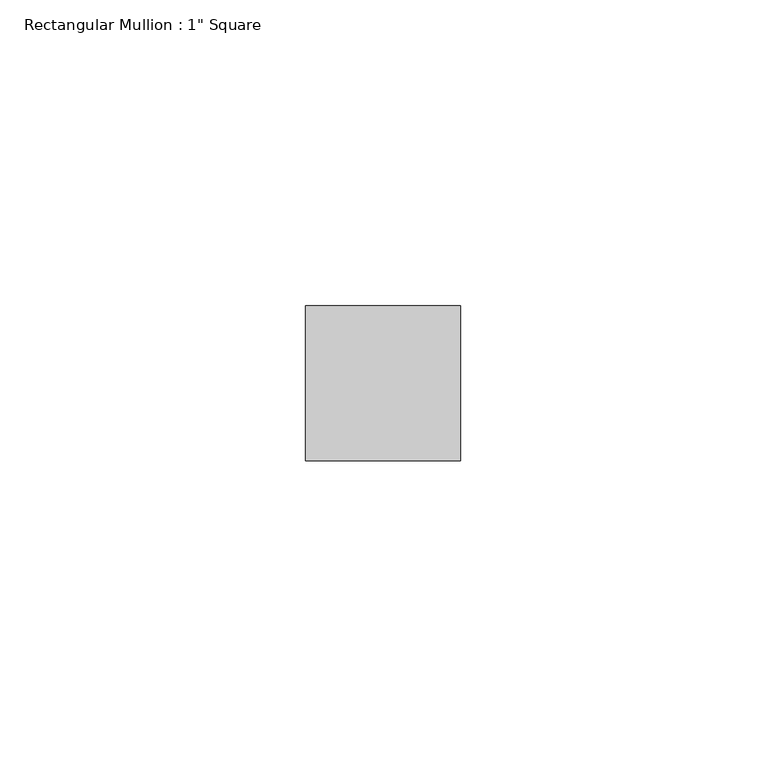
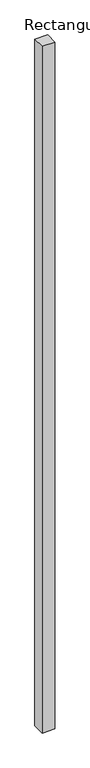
"""IFC4 building model written with IfcOpenShell, lengths in millimetres: member geometry."""

import ifcopenshell
import ifcopenshell.guid

model = None  # the IFC model being written
_history = None  # IfcOwnerHistory: only IFC2X3 demands one
_inside = {}  # id of a spatial element -> (the spatial element, [elements in it])
_under = {}  # id of a project, library or spatial element -> (it, [spatial elements below it])
_declared = {}  # id of a project -> (the project, [libraries it declares])
_typed = {}  # id of a type object -> (the type object, [elements of that type])
_made_of = {}  # id of a material, layer set ... -> (it, [elements and type objects made of it])


def new_model(schema):
    """Start an empty IFC model of exactly this schema.

    Asked for "IFC4X3", IfcOpenShell would pick the latest addendum, in which some entities
    have other attributes; the version numbers below select the first issue.
    IFC2X3 requires an IfcOwnerHistory on every rooted entity: one is made here for all.
    """
    global model, _history
    if schema == "IFC4X3":
        model = ifcopenshell.file(schema_version=(4, 3, 0, 0))
    else:
        model = ifcopenshell.file(schema=schema)
    _inside.clear()
    _under.clear()
    _declared.clear()
    _typed.clear()
    _made_of.clear()
    _history = None
    if model.schema == "IFC2X3":
        org = make("IfcOrganization", Name="unknown")
        user = make(
            "IfcPersonAndOrganization",
            ThePerson=make("IfcPerson", FamilyName="unknown"),
            TheOrganization=org,
        )
        app = make(
            "IfcApplication",
            ApplicationDeveloper=org,
            Version="unknown",
            ApplicationFullName="unknown",
            ApplicationIdentifier="unknown",
        )
        _history = make(
            "IfcOwnerHistory",
            OwningUser=user,
            OwningApplication=app,
            ChangeAction="ADDED",
            CreationDate=0,
        )
    return model


def make(cls, **values):
    """One entity of the class cls with the attributes given. An attribute that is None is left unset."""
    return model.create_entity(
        cls, **{name: value for name, value in values.items() if value is not None}
    )


def rooted(cls, **values):
    """An entity with a GlobalId (a new one), such as an element, a storey or a relation."""
    return make(cls, GlobalId=ifcopenshell.guid.new(), OwnerHistory=_history, **values)


def si_unit(unit_type, name, prefix=None):
    """IfcSIUnit, for example si_unit("LENGTHUNIT", "METRE", prefix="MILLI")."""
    return make("IfcSIUnit", UnitType=unit_type, Prefix=prefix, Name=name)


def assignment(units):
    """IfcUnitAssignment: the units of a project."""
    return None if units is None else make("IfcUnitAssignment", Units=units)


def point(xyz):
    """IfcCartesianPoint."""
    return None if xyz is None else make("IfcCartesianPoint", Coordinates=xyz)


def direction(xyz):
    """IfcDirection."""
    return None if xyz is None else make("IfcDirection", DirectionRatios=xyz)


def frame(location, z_axis=None, x_axis=None):
    """IfcAxis2Placement3D, a coordinate frame: its origin and axes. An axis left out is left unset."""
    return make(
        "IfcAxis2Placement3D",
        Location=point(location),
        Axis=direction(z_axis),
        RefDirection=direction(x_axis),
    )


def origin():
    """The frame at (0, 0, 0) with its axes left unset."""
    return frame((0.0, 0.0, 0.0))


def place(relative_to, where):
    """IfcLocalPlacement: puts the frame where relative to a parent placement (None: the world)."""
    return make(
        "IfcLocalPlacement", PlacementRelTo=relative_to, RelativePlacement=where
    )


def context(
    kind, dimensions, precision=None, world=None, true_north=None, identifier=None
):
    """IfcGeometricRepresentationContext, for example the 3D "Model" context."""
    return make(
        "IfcGeometricRepresentationContext",
        ContextIdentifier=identifier,
        ContextType=kind,
        CoordinateSpaceDimension=dimensions,
        Precision=precision,
        WorldCoordinateSystem=world,
        TrueNorth=true_north,
    )


def project(units=None, contexts=None):
    """IfcProject with its units and contexts."""
    return rooted(
        "IfcProject",
        Name="project",
        RepresentationContexts=contexts,
        UnitsInContext=assignment(units),
    )


def spatial(cls, under=None, at=None, **own):
    """A site, building, storey or space (cls), placed at a placement, below another one or the project."""
    s = rooted(cls, ObjectPlacement=at, **own)
    if under is not None:
        _under.setdefault(under.id(), (under, []))[1].append(s)
    return s


def polyline(points):
    """IfcPolyline through the points."""
    return make("IfcPolyline", Points=[point(p) for p in points])


def outline(outer, holes=None, kind="AREA"):
    """IfcArbitraryClosedProfileDef: a profile drawn as a closed curve; with holes, ...WithVoids."""
    if holes is None:
        return make("IfcArbitraryClosedProfileDef", ProfileType=kind, OuterCurve=outer)
    return make(
        "IfcArbitraryProfileDefWithVoids",
        ProfileType=kind,
        OuterCurve=outer,
        InnerCurves=holes,
    )


def extrude(swept, where, along, depth):
    """IfcExtrudedAreaSolid: the profile swept, set in the frame where, extruded along a direction by depth."""
    return make(
        "IfcExtrudedAreaSolid",
        SweptArea=swept,
        Position=where,
        ExtrudedDirection=direction(along),
        Depth=depth,
    )


def shape(context_of_items, identifier, shape_type, items):
    """IfcShapeRepresentation: the items that make up one representation, for example the "Body"."""
    return make(
        "IfcShapeRepresentation",
        ContextOfItems=context_of_items,
        RepresentationIdentifier=identifier,
        RepresentationType=shape_type,
        Items=items,
    )


def source(mapping_origin, context_of_items, identifier, shape_type, items):
    """IfcRepresentationMap: a shape defined once, which mapped items show again and again."""
    return make(
        "IfcRepresentationMap",
        MappingOrigin=mapping_origin,
        MappedRepresentation=shape(context_of_items, identifier, shape_type, items),
    )


def transform(
    local_origin,
    x_axis=None,
    y_axis=None,
    z_axis=None,
    scale=None,
    scale2=None,
    scale3=None,
    uniform=True,
):
    """IfcCartesianTransformationOperator3D, or its non-uniform kind. x_axis, y_axis, z_axis: its Axis1, 2, 3."""
    if uniform:
        return make(
            "IfcCartesianTransformationOperator3D",
            Axis1=direction(x_axis),
            Axis2=direction(y_axis),
            LocalOrigin=point(local_origin),
            Scale=scale,
            Axis3=direction(z_axis),
        )
    return make(
        "IfcCartesianTransformationOperator3DnonUniform",
        Axis1=direction(x_axis),
        Axis2=direction(y_axis),
        LocalOrigin=point(local_origin),
        Scale=scale,
        Axis3=direction(z_axis),
        Scale2=scale2,
        Scale3=scale3,
    )


def mapped(mapping_source, mapping_target):
    """IfcMappedItem: shows the shape of a source again, moved by a transform."""
    return make(
        "IfcMappedItem", MappingSource=mapping_source, MappingTarget=mapping_target
    )


def made_of(thing, what):
    """Note that an element or type object is made of a material, layer set ...; save() writes the relation."""
    if what is not None:
        _made_of.setdefault(what.id(), (what, []))[1].append(thing)
    return thing


def element(
    cls,
    number,
    at=None,
    inside=None,
    cuts=None,
    type_object=None,
    material=None,
    context=None,
    identifier="Body",
    shape_type=None,
    held_by="IfcProductDefinitionShape",
    body=None,
    shapes=None,
    **own,
):
    """One element of the class cls, such as IfcWall. Its Tag is "e" and its number.

    at: its placement. inside: the storey or other place that contains it. cuts: it is an
    opening in that element (IfcRelVoidsElement). A single representation is given by context,
    identifier, shape_type and body (its items); several are given by shapes. held_by: the class
    of the entity that holds the representations. save() writes the other relations.
    """
    e = rooted(cls, Tag="e%d" % number, ObjectPlacement=at, **own)
    if body is not None:
        shapes = [shape(context, identifier, shape_type, body)]
    if shapes is not None:
        e.Representation = make(held_by, Representations=shapes)
    if inside is not None:
        _inside.setdefault(inside.id(), (inside, []))[1].append(e)
    if cuts is not None:
        rooted(
            "IfcRelVoidsElement", RelatingBuildingElement=cuts, RelatedOpeningElement=e
        )
    if type_object is not None:
        _typed.setdefault(type_object.id(), (type_object, []))[1].append(e)
    return made_of(e, material)


def aggregate(whole, parts):
    """IfcRelAggregates: a whole, such as a stair, and the parts it consists of."""
    return rooted("IfcRelAggregates", RelatingObject=whole, RelatedObjects=parts)


def save(model, path):
    """Write the relations noted so far, then the file.

    IfcRelAggregates (storeys below a building ...), IfcRelContainedInSpatialStructure (elements
    in a storey), IfcRelDefinesByType, IfcRelAssociatesMaterial and IfcRelDeclares: one each for
    every whole, place, type object, material and project.
    """
    for whole, parts in _under.values():
        aggregate(whole, parts)
    for where, things in _inside.values():
        rooted(
            "IfcRelContainedInSpatialStructure",
            RelatedElements=things,
            RelatingStructure=where,
        )
    for kind, things in _typed.values():
        rooted("IfcRelDefinesByType", RelatedObjects=things, RelatingType=kind)
    for what, things in _made_of.values():
        rooted("IfcRelAssociatesMaterial", RelatedObjects=things, RelatingMaterial=what)
    for by, libraries in _declared.values():
        rooted("IfcRelDeclares", RelatingContext=by, RelatedDefinitions=libraries)
    model.write(path)


def member_7a2ca0a4(model_context):
    return source(origin(), model_context, "Body", "SweptSolid", [
        extrude(outline(polyline([(12.7, 12.7), (12.7, -12.7), (-12.7, -12.7), (-12.7, 12.7), (12.7, 12.7)])), frame((0.0, 0.0, -1448.355757), z_axis=(0.0, 0.0, 1.0), x_axis=(1.0, 0.0, 0.0)), (0.0, 0.0, 1.0), 1448.355757),
    ])


if __name__ == "__main__":
    model = new_model("IFC4")
    model_context = context("Model", 3, world=origin())
    ifc_project = project(units=[si_unit("LENGTHUNIT", "METRE", prefix="MILLI")], contexts=[model_context])
    site = spatial("IfcSite", under=ifc_project)
    building = spatial("IfcBuilding", under=site)
    placement = place(None, origin())
    member_shape = member_7a2ca0a4(model_context)
    element("IfcMember", 1, ObjectType="Rectangular Mullion : 1\" Square", at=placement, inside=building, context=model_context, shape_type="MappedRepresentation", body=[
        mapped(member_shape, transform((0.0, 0.0, 0.0), x_axis=(1.0, 0.0, 0.0), y_axis=(0.0, 1.0, 0.0), z_axis=(0.0, 0.0, 1.0))),
    ])
    save(model, "model.ifc")
